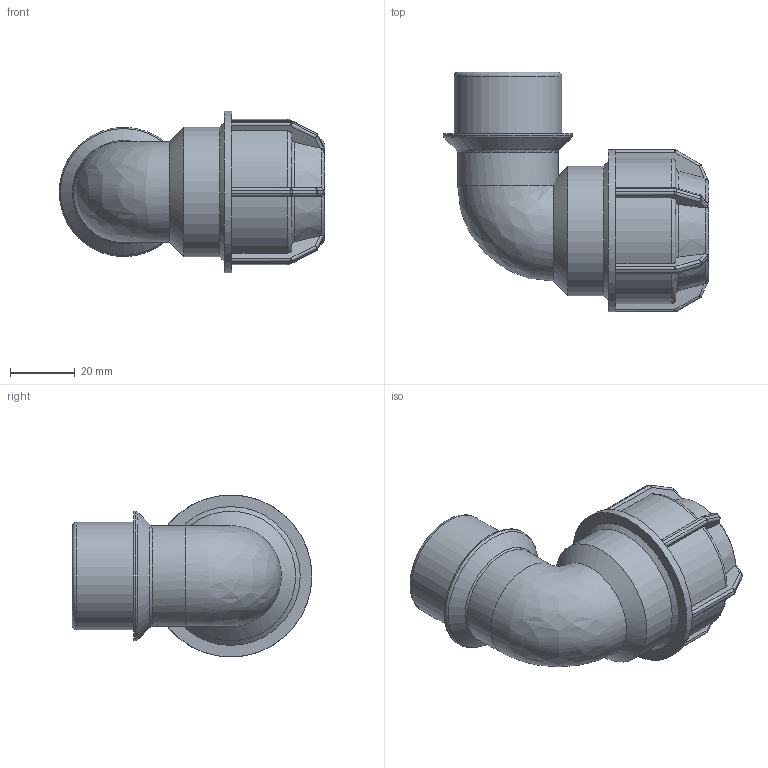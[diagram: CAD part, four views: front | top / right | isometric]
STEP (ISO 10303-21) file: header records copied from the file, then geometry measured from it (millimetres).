
FILE_DESCRIPTION(/* description */ ('PLASSON L.14 90° ELBOW MALE ADAPTOR (SILVER) 25-1"'),/* implementation_level */ '2;1');
FILE_NAME(/* name */ 'C:\Dropbox\KIMPROJECTS-Inventor\99-16-3568-Processing\Silver+MF ISRAEL\148500\148500025010.ipt.stp',/* time_stamp */ '2018-04-09T13:05:45+03:00',/* author */ ('KIM'),/* organization */ (''),/* preprocessor_version */ 'ST-DEVELOPER v15.6',/* originating_system */ 'Autodesk Inventor 2015',/* authorisation */ '');
FILE_SCHEMA (('AUTOMOTIVE_DESIGN { 1 0 10303 214 3 1 1 }'));
Length unit declared in the file: millimetre
Products named in the file (1): 148500025010
Bounding box: 81.95 x 74 x 50 mm (x, y, z)
Volume: 64562.9 mm3; surface area: 23807.5 mm2
Topology: 1 solids, 1 shells, 214 faces, 511 edges, 292 vertices
Faces by surface type: plane 98, cylinder 63, sphere 24, torus 18, cone 10, bspline 1
Full cylindrical faces by diameter (mm): 23.274 x2, 25 x2, 31.088 x1, 33.249 x1, 39.899 x1, 40 x1, 50 x1
Entity records: 6160 total; most frequent: CARTESIAN_POINT 1583, DIRECTION 964, ORIENTED_EDGE 926, EDGE_CURVE 463, AXIS2_PLACEMENT_3D 392, VERTEX_POINT 276, EDGE_LOOP 237, FACE_OUTER_BOUND 212
